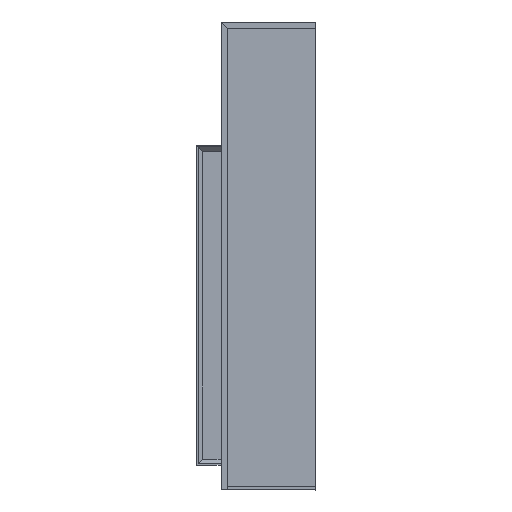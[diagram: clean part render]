
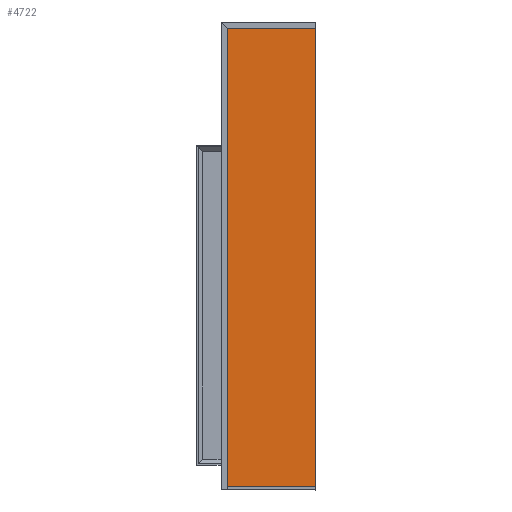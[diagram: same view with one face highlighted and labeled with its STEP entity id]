
A CAD part, left-side view. The second image highlights one B-rep face of the part: STEP entity #4722.
In plain terms, the highlighted planar face has unit normal (-1, 0, 0) as drawn and (0, 0, -1) by its records, which use the part's own axes.
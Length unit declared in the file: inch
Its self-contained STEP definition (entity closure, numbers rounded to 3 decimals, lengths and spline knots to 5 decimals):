
#972=FACE_OUTER_BOUND('',#1225,.T.);
#1225=EDGE_LOOP('',(#3849,#3850,#3851,#3852));
#1629=LINE('',#7340,#2153);
#1630=LINE('',#7342,#2154);
#1631=LINE('',#7344,#2155);
#1632=LINE('',#7345,#2156);
#2153=VECTOR('',#5947,0.3937);
#2154=VECTOR('',#5948,0.3937);
#2155=VECTOR('',#5949,0.3937);
#2156=VECTOR('',#5950,0.3937);
#2581=VERTEX_POINT('',#7338);
#2582=VERTEX_POINT('',#7339);
#2583=VERTEX_POINT('',#7341);
#2584=VERTEX_POINT('',#7343);
#3031=EDGE_CURVE('',#2581,#2582,#1629,.T.);
#3032=EDGE_CURVE('',#2583,#2581,#1630,.T.);
#3033=EDGE_CURVE('',#2583,#2584,#1631,.T.);
#3034=EDGE_CURVE('',#2584,#2582,#1632,.T.);
#3849=ORIENTED_EDGE('',*,*,#3031,.F.);
#3850=ORIENTED_EDGE('',*,*,#3032,.F.);
#3851=ORIENTED_EDGE('',*,*,#3033,.T.);
#3852=ORIENTED_EDGE('',*,*,#3034,.T.);
#4475=PLANE('',#5217);
#4722=ADVANCED_FACE('',(#972),#4475,.T.);
#5217=AXIS2_PLACEMENT_3D('',#7337,#5945,#5946);
#5945=DIRECTION('center_axis',(0.,0.,-1.));
#5946=DIRECTION('ref_axis',(0.,-1.,0.));
#5947=DIRECTION('',(0.,-1.,0.));
#5948=DIRECTION('',(-1.,0.,0.));
#5949=DIRECTION('',(0.,-1.,0.));
#5950=DIRECTION('',(-1.,0.,0.));
#7337=CARTESIAN_POINT('Origin',(113.25,0.,-24.));
#7338=CARTESIAN_POINT('',(1.5,0.,-24.));
#7339=CARTESIAN_POINT('',(1.5,-21.5,-24.));
#7340=CARTESIAN_POINT('',(1.5,-5.375,-24.));
#7341=CARTESIAN_POINT('',(113.25,0.,-24.));
#7342=CARTESIAN_POINT('',(113.25,0.,-24.));
#7343=CARTESIAN_POINT('',(113.25,-21.5,-24.));
#7344=CARTESIAN_POINT('',(113.25,0.,-24.));
#7345=CARTESIAN_POINT('',(113.25,-21.5,-24.));
